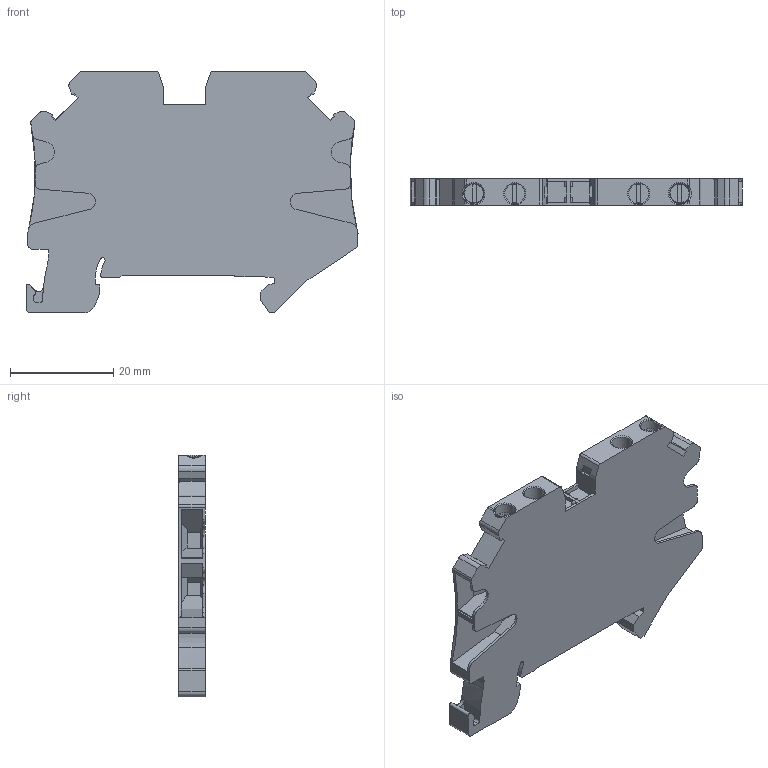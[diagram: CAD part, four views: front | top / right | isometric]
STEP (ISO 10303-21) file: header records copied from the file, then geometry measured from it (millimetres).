
FILE_DESCRIPTION( ('This file contains a STEP AP42 implementation' ,'as created by ZW3D STEP Interface translator.') ,'2;1' );
FILE_NAME( 'RUT2.5-QUATTRO .stp' ,'23 729.171913', (''), ('ZWCAD Software Co.'), 'Version 1.0', 'ZW3D to STEP translator', '' );
FILE_SCHEMA(('AUTOMOTIVE_DESIGN { 1 0 10303 214 1 1 1 1 }'));
Length unit declared in the file: millimetre
Products named in the file (2): 0; RUT2.5-QUATTRO 俋褲5.3
Bounding box: 64.3 x 5.15 x 46.87 mm (x, y, z)
Volume: 10619.8 mm3; surface area: 6961.6 mm2
Topology: 1 solids, 1 shells, 275 faces, 779 edges, 511 vertices
Faces by surface type: plane 176, cylinder 74, bspline 15, torus 10
Entity records: 9728 total; most frequent: CARTESIAN_POINT 2302, ORIENTED_EDGE 1558, DIRECTION 1423, EDGE_CURVE 779, VECTOR 543, LINE 543, VERTEX_POINT 511, AXIS2_PLACEMENT_3D 440
